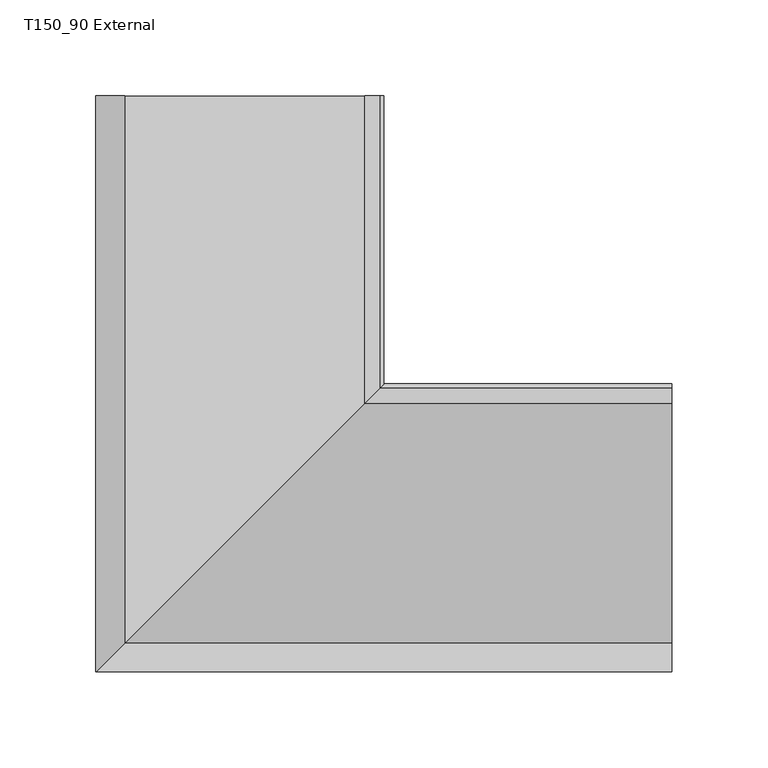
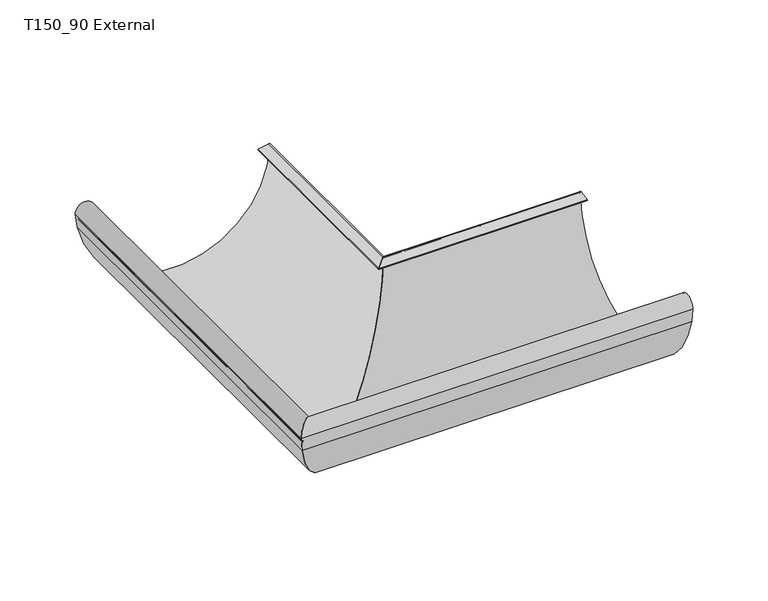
"""IFC4 building model written with IfcOpenShell, lengths in millimetres: proxy geometry, GROVIK_Gutter_Corner : T150_90 External."""

from ifc_helpers import new_model, si_unit, frame, origin, place, context, project, spatial, polyline, circle_curve, ellipse_curve, source, transform, mapped, element, save
from ifc_brep_helpers import plane_surface, cylinder_surface, revolved_surface, advanced_brep


def t150_90_external_e34a668a(model_context):
    return source(origin(), model_context, "Body", "AdvancedBrep", [
        advanced_brep(
        [(-9.9441961, -9.9441961, -1.4092855), (-9.7857475, -9.7857475, -2.295228), (-2.2975071, -2.2975071, -0.9559749), (-1.0039531, -1.0039531, -2.0540157), (-147.4579744, -147.4579744, -16.0293209), (-149.0946963, -149.0946963, -5.3813466), (-146.9551017, -146.9551017, -9.9710741), (-147.4343725, -147.4343725, -8.9478528), (-148.0, -148.0, -5.4006666), (-148.8875189, -148.8875189, -5.5500325), (-148.3363785, -148.3363785, -9.0063664), (-147.5920528, -147.5920528, -10.6080252), (-150.0, -150.0, -5.2006666), (-148.4372161, -148.4372161, -16.2320172), (0.0, 0.0, -1.8), (-2.2000746, -2.2000746, -0.0242687), (-2.2000746, 150.0, -0.0242687), (0.0, 150.0, -1.8), (-148.4372161, 150.0, -16.2320172), (-150.0, 150.0, -5.2006666), (-147.5920528, 150.0, -10.6080252), (-148.3363785, 150.0, -9.0063664), (-148.8875189, 150.0, -5.5500325), (-148.0, 150.0, -5.4006666), (-147.4343725, 150.0, -8.9478528), (-146.9551017, 150.0, -9.9710741), (-149.0946963, 150.0, -5.3813466), (-147.4579744, 150.0, -16.0293209), (-1.003133, 150.0, -2.054027), (-2.2975071, 150.0, -0.9559749), (-9.7857475, 150.0, -2.295228), (-9.9441961, 150.0, -1.4092855)],
        [
            (0, 1),
            (1, 2),
            (2, 3, ellipse_curve(frame((-2.1038477, -2.1038477, -2.0387934), z_axis=(-0.707106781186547, 0.7071067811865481, 0.0), x_axis=(-0.7071067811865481, -0.7071067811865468, 0.0)), 1.5556349, 1.1)),
            (3, 4, ellipse_curve(frame((-74.995059, -74.995059, -1.03), z_axis=(-0.707106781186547, 0.7071067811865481, 0.0), x_axis=(-0.7071067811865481, -0.7071067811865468, 0.0)), 104.6504061, 73.9990118)),
            (4, 5),
            (5, 6, ellipse_curve(frame((-142.5, -142.5, -5.1006666), z_axis=(-0.707106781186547, 0.7071067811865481, 0.0), x_axis=(-0.7071067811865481, -0.7071067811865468, 0.0)), 9.3347523, 6.6006666)),
            (6, 7, ellipse_curve(frame((-145.4150076, -145.4150076, -8.6258487), z_axis=(-0.707106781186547, 0.7071067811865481, 0.0), x_axis=(-0.7071067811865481, -0.7071067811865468, 0.0)), 2.8918925, 2.0448768)),
            (7, 8),
            (8, 9),
            (9, 10),
            (10, 11, ellipse_curve(frame((-145.1464101, -145.1464101, -8.4977001), z_axis=(0.707106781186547, -0.7071067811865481, 0.0), x_axis=(0.7071067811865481, 0.7071067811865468, 0.0)), 4.5682907, 3.2302694)),
            (11, 12, ellipse_curve(frame((-142.5, -142.5, -5.1006666), z_axis=(0.707106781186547, -0.7071067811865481, 0.0), x_axis=(0.7071067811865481, 0.7071067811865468, 0.0)), 10.6075445, 7.5006666)),
            (12, 13),
            (13, 14, ellipse_curve(frame((-74.995059, -74.995059, -1.03), z_axis=(0.707106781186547, -0.7071067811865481, 0.0), x_axis=(0.7071067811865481, 0.7071067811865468, 0.0)), 106.0646196, 74.9990118)),
            (14, 15, ellipse_curve(frame((-1.8973666, -1.8973666, -1.9), z_axis=(0.707106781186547, -0.7071067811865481, 0.0), x_axis=(0.7071067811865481, 0.7071067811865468, 0.0)), 2.6870058, 1.9)),
            (15, 0),
            (16, 17, circle_curve(frame((-1.8973666, 150.0, -1.9), z_axis=(0.0, 1.0, 0.0), x_axis=(-1.0, 0.0, 0.0)), 1.9)),
            (17, 18, circle_curve(frame((-74.995059, 150.0, -1.03), z_axis=(0.0, 1.0, 0.0), x_axis=(1.0, 0.0, 0.0)), 74.9990118)),
            (18, 19),
            (19, 20, circle_curve(frame((-142.5, 150.0, -5.1006666), z_axis=(0.0, 1.0, 0.0), x_axis=(-1.0, 0.0, 0.0)), 7.5006666)),
            (20, 21, circle_curve(frame((-145.1464101, 150.0, -8.4977001), z_axis=(0.0, 1.0, 0.0), x_axis=(-1.0, 0.0, 0.0)), 3.2302694)),
            (21, 22),
            (22, 23),
            (23, 24),
            (24, 25, circle_curve(frame((-145.4150076, 150.0, -8.6258487), z_axis=(0.0, -1.0, 0.0), x_axis=(-1.0, 0.0, 0.0)), 2.0448768)),
            (25, 26, circle_curve(frame((-142.5, 150.0, -5.1006666), z_axis=(0.0, -1.0, 0.0), x_axis=(-1.0, 0.0, 0.0)), 6.6006666)),
            (26, 27),
            (27, 28, circle_curve(frame((-74.995059, 150.0, -1.03), z_axis=(0.0, -1.0, 0.0), x_axis=(1.0, 0.0, 0.0)), 73.9990118)),
            (28, 29, circle_curve(frame((-2.1038477, 150.0, -2.0387934), z_axis=(0.0, -1.0, 0.0), x_axis=(-1.0, 0.0, 0.0)), 1.1)),
            (29, 30),
            (30, 31),
            (31, 16),
            (31, 0),
            (15, 16),
            (30, 1),
            (29, 2),
            (28, 3),
            (27, 4),
            (26, 5),
            (25, 6),
            (24, 7),
            (23, 8),
            (22, 9),
            (21, 10),
            (20, 11),
            (19, 12),
            (18, 13),
            (17, 14),
        ],
        [
            plane_surface(frame((-200.0, -200.0, 250.0), z_axis=(0.707106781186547, -0.7071067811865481, 0.0), x_axis=(0.0, 0.0, -1.0))),
            plane_surface(frame((0.0, 150.0, 0.0), z_axis=(0.0, 1.0, 0.0), x_axis=(0.0, 0.0, 1.0))),
            plane_surface(frame((-2.2000746, 150.0, -0.0242687), z_axis=(-0.17605399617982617, 0.0, 0.9843805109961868), x_axis=(0.0, -1.0, 0.0))),
            plane_surface(frame((-9.9441961, 150.0, -1.4092855), z_axis=(-0.9843805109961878, 0.0, -0.1760539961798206), x_axis=(0.0, -1.0, 0.0))),
            plane_surface(frame((-9.7857475, 150.0, -2.295228), z_axis=(0.17605399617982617, 0.0, -0.9843805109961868), x_axis=(0.0, -1.0, 0.0))),
            revolved_surface(polyline([(-3.2038477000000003, -3.2038476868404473, -2.0387934), (-3.2038477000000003, 150.0, -2.0387934)]), (-2.1038477, 150.0, -2.0387934), (0.0, -1.0, 0.0)),
            revolved_surface(polyline([(-0.9960471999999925, -148.99407080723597, -1.03), (-0.9960471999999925, 150.0, -1.03)]), (-74.995059, 150.0, -1.03), (0.0, -1.0, 0.0)),
            plane_surface(frame((-147.4579744, 150.0, -16.0293209), z_axis=(0.9883916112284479, 0.0, 0.15192768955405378), x_axis=(0.0, -1.0, 0.0))),
            revolved_surface(polyline([(-149.1006666, -149.1006666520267, -5.1006666), (-149.1006666, 150.0, -5.1006666)]), (-142.5, 150.0, -5.1006666), (0.0, -1.0, 0.0)),
            revolved_surface(polyline([(-147.4598844, -147.45988439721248, -8.6258487), (-147.4598844, 150.0, -8.6258487)]), (-145.4150076, 150.0, -8.6258487), (0.0, -1.0, 0.0)),
            plane_surface(frame((-147.4343725, 150.0, -8.9478528), z_axis=(0.9875239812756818, 0.0, 0.1574686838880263), x_axis=(0.0, -1.0, 0.0))),
            plane_surface(frame((-148.0, 150.0, -5.4006666), z_axis=(-0.1659620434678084, 0.0, 0.9861321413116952), x_axis=(0.0, -1.0, 0.0))),
            plane_surface(frame((-148.8875189, 150.0, -5.5500325), z_axis=(-0.9875239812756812, 0.0, -0.15746868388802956), x_axis=(0.0, -1.0, 0.0))),
            cylinder_surface(frame((-145.1464101, 150.0, -8.4977001), z_axis=(0.0, 1.0, 0.0), x_axis=(-1.0, 0.0, 0.0)), 3.2302694),
            cylinder_surface(frame((-142.5, 150.0, -5.1006666), z_axis=(0.0, 1.0, 0.0), x_axis=(-1.0, 0.0, 0.0)), 7.5006666),
            plane_surface(frame((-150.0, 150.0, -5.2006666), z_axis=(-0.9901137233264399, 0.0, -0.14026694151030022), x_axis=(0.0, -1.0, 0.0))),
            cylinder_surface(frame((-74.995059, 150.0, -1.03), z_axis=(0.0, 1.0, 0.0), x_axis=(1.0, 0.0, 0.0)), 74.9990118),
            cylinder_surface(frame((-1.8973666, 150.0, -1.9), z_axis=(0.0, 1.0, 0.0), x_axis=(-1.0, 0.0, 0.0)), 1.9),
        ],
        [
            (0, [[1, 2, 3, 4, 5, 6, 7, 8, 9, 10, 11, 12, 13, 14, 15, 16]]),
            (1, [[17, 18, 19, 20, 21, 22, 23, 24, 25, 26, 27, 28, 29, 30, 31, 32]]),
            (2, [[33, -16, 34, -32]]),
            (3, [[35, -1, -33, -31]]),
            (4, [[36, -2, -35, -30]]),
            (5, [[37, -3, -36, -29]]),
            (6, [[38, -4, -37, -28]]),
            (7, [[39, -5, -38, -27]]),
            (8, [[40, -6, -39, -26]]),
            (9, [[41, -7, -40, -25]]),
            (10, [[42, -8, -41, -24]]),
            (11, [[43, -9, -42, -23]]),
            (12, [[44, -10, -43, -22]]),
            (13, [[45, -11, -44, -21]]),
            (14, [[46, -12, -45, -20]]),
            (15, [[47, -13, -46, -19]]),
            (16, [[48, -14, -47, -18]]),
            (17, [[-34, -15, -48, -17]]),
        ],
    ),
        advanced_brep(
        [(-9.9441961, -9.9441961, -1.4092855), (-2.2000746, -2.2000746, -0.0242687), (0.0, 0.0, -1.8), (-148.4372161, -148.4372161, -16.2320172), (-150.0, -150.0, -5.2006666), (-147.5920528, -147.5920528, -10.6080252), (-148.3363785, -148.3363785, -9.0063664), (-148.8875189, -148.8875189, -5.5500325), (-148.0, -148.0, -5.4006666), (-147.4343725, -147.4343725, -8.9478528), (-146.9551017, -146.9551017, -9.9710741), (-149.0946963, -149.0946963, -5.3813466), (-147.4579744, -147.4579744, -16.0293209), (-1.003133, -1.003133, -2.054027), (-2.2975071, -2.2975071, -0.9559749), (-9.7857475, -9.7857475, -2.295228), (150.0, -2.2000746, -0.0242687), (150.0, -9.9441961, -1.4092855), (150.0, -9.7857475, -2.295228), (150.0, -2.2975071, -0.9559749), (150.0, -1.0039531, -2.0540157), (150.0, -147.4579744, -16.0293209), (150.0, -149.0946963, -5.3813466), (150.0, -146.9551017, -9.9710741), (150.0, -147.4343725, -8.9478528), (150.0, -148.0, -5.4006666), (150.0, -148.8875189, -5.5500325), (150.0, -148.3363785, -9.0063664), (150.0, -147.5920528, -10.6080252), (150.0, -150.0, -5.2006666), (150.0, -148.4372161, -16.2320172), (150.0, 0.0, -1.8)],
        [
            (0, 1),
            (1, 2, ellipse_curve(frame((-1.8973666, -1.8973666, -1.9), z_axis=(-0.707106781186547, 0.7071067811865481, 0.0), x_axis=(0.7071067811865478, 0.707106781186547, 0.0)), 2.6870058, 1.9)),
            (2, 3, ellipse_curve(frame((-74.995059, -74.995059, -1.03), z_axis=(-0.707106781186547, 0.7071067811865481, 0.0), x_axis=(0.7071067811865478, 0.707106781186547, 0.0)), 106.0646196, 74.9990118)),
            (3, 4),
            (4, 5, ellipse_curve(frame((-142.5, -142.5, -5.1006666), z_axis=(-0.707106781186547, 0.7071067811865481, 0.0), x_axis=(0.7071067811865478, 0.707106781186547, 0.0)), 10.6075445, 7.5006666)),
            (5, 6, ellipse_curve(frame((-145.1464101, -145.1464101, -8.4977001), z_axis=(-0.707106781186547, 0.7071067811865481, 0.0), x_axis=(0.7071067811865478, 0.707106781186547, 0.0)), 4.5682907, 3.2302694)),
            (6, 7),
            (7, 8),
            (8, 9),
            (9, 10, ellipse_curve(frame((-145.4150076, -145.4150076, -8.6258487), z_axis=(0.707106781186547, -0.7071067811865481, 0.0), x_axis=(-0.7071067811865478, -0.707106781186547, 0.0)), 2.8918925, 2.0448768)),
            (10, 11, ellipse_curve(frame((-142.5, -142.5, -5.1006666), z_axis=(0.707106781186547, -0.7071067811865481, 0.0), x_axis=(-0.7071067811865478, -0.707106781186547, 0.0)), 9.3347523, 6.6006666)),
            (11, 12),
            (12, 13, ellipse_curve(frame((-74.995059, -74.995059, -1.03), z_axis=(0.707106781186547, -0.7071067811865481, 0.0), x_axis=(-0.7071067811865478, -0.707106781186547, 0.0)), 104.6504061, 73.9990118)),
            (13, 14, ellipse_curve(frame((-2.1038477, -2.1038477, -2.0387934), z_axis=(0.707106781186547, -0.7071067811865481, 0.0), x_axis=(-0.7071067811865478, -0.707106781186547, 0.0)), 1.5556349, 1.1)),
            (14, 15),
            (15, 0),
            (16, 17),
            (17, 18),
            (18, 19),
            (19, 20, circle_curve(frame((150.0, -2.1038477, -2.0387934), z_axis=(-1.0, 0.0, 0.0), x_axis=(0.0, -1.0, 0.0)), 1.1)),
            (20, 21, circle_curve(frame((150.0, -74.995059, -1.03), z_axis=(-1.0, 0.0, 0.0), x_axis=(0.0, 1.0, 0.0)), 73.9990118)),
            (21, 22),
            (22, 23, circle_curve(frame((150.0, -142.5, -5.1006666), z_axis=(-1.0, 0.0, 0.0), x_axis=(0.0, -1.0, 0.0)), 6.6006666)),
            (23, 24, circle_curve(frame((150.0, -145.4150076, -8.6258487), z_axis=(-1.0, 0.0, 0.0), x_axis=(0.0, -1.0, 0.0)), 2.0448768)),
            (24, 25),
            (25, 26),
            (26, 27),
            (27, 28, circle_curve(frame((150.0, -145.1464101, -8.4977001), z_axis=(1.0, 0.0, 0.0), x_axis=(0.0, -1.0, 0.0)), 3.2302694)),
            (28, 29, circle_curve(frame((150.0, -142.5, -5.1006666), z_axis=(1.0, 0.0, 0.0), x_axis=(0.0, -1.0, 0.0)), 7.5006666)),
            (29, 30),
            (30, 31, circle_curve(frame((150.0, -74.995059, -1.03), z_axis=(1.0, 0.0, 0.0), x_axis=(0.0, 1.0, 0.0)), 74.9990118)),
            (31, 16, circle_curve(frame((150.0, -1.8973666, -1.9), z_axis=(1.0, 0.0, 0.0), x_axis=(0.0, -1.0, 0.0)), 1.9)),
            (16, 1),
            (0, 17),
            (15, 18),
            (14, 19),
            (13, 20),
            (12, 21),
            (11, 22),
            (10, 23),
            (9, 24),
            (8, 25),
            (7, 26),
            (6, 27),
            (5, 28),
            (4, 29),
            (3, 30),
            (2, 31),
        ],
        [
            plane_surface(frame((-200.0, -200.0, 250.0), z_axis=(-0.707106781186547, 0.7071067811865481, 0.0), x_axis=(0.0, 0.0, -1.0))),
            plane_surface(frame((150.0, 0.0, 0.0), z_axis=(1.0, 0.0, 0.0), x_axis=(0.0, 0.0, 1.0))),
            plane_surface(frame((150.0, -2.2000746, -0.0242687), z_axis=(0.0, -0.17605399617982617, 0.9843805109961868), x_axis=(-1.0, 0.0, 0.0))),
            plane_surface(frame((150.0, -9.9441961, -1.4092855), z_axis=(0.0, -0.9843805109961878, -0.1760539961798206), x_axis=(-1.0, 0.0, 0.0))),
            plane_surface(frame((150.0, -9.7857475, -2.295228), z_axis=(0.0, 0.17605399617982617, -0.9843805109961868), x_axis=(-1.0, 0.0, 0.0))),
            revolved_surface(polyline([(-3.2038476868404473, -3.2038477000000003, -2.0387934), (150.0, -3.2038477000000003, -2.0387934)]), (150.0, -2.1038477, -2.0387934), (-1.0, 0.0, 0.0)),
            revolved_surface(polyline([(-148.99407080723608, -0.9960471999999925, -1.03), (150.0, -0.9960471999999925, -1.03)]), (150.0, -74.995059, -1.03), (-1.0, 0.0, 0.0)),
            plane_surface(frame((150.0, -147.4579744, -16.0293209), z_axis=(0.0, 0.9883916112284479, 0.15192768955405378), x_axis=(-1.0, 0.0, 0.0))),
            revolved_surface(polyline([(-149.10066665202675, -149.1006666, -5.1006666), (150.0, -149.1006666, -5.1006666)]), (150.0, -142.5, -5.1006666), (-1.0, 0.0, 0.0)),
            revolved_surface(polyline([(-147.45988439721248, -147.4598844, -8.6258487), (150.0, -147.4598844, -8.6258487)]), (150.0, -145.4150076, -8.6258487), (-1.0, 0.0, 0.0)),
            plane_surface(frame((150.0, -147.4343725, -8.9478528), z_axis=(0.0, 0.9875239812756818, 0.1574686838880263), x_axis=(-1.0, 0.0, 0.0))),
            plane_surface(frame((150.0, -148.0, -5.4006666), z_axis=(0.0, -0.1659620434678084, 0.9861321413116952), x_axis=(-1.0, 0.0, 0.0))),
            plane_surface(frame((150.0, -148.8875189, -5.5500325), z_axis=(0.0, -0.9875239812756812, -0.15746868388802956), x_axis=(-1.0, 0.0, 0.0))),
            cylinder_surface(frame((150.0, -145.1464101, -8.4977001), z_axis=(1.0, 0.0, 0.0), x_axis=(0.0, -1.0, 0.0)), 3.2302694),
            cylinder_surface(frame((150.0, -142.5, -5.1006666), z_axis=(1.0, 0.0, 0.0), x_axis=(0.0, -1.0, 0.0)), 7.5006666),
            plane_surface(frame((150.0, -150.0, -5.2006666), z_axis=(0.0, -0.9901137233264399, -0.14026694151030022), x_axis=(-1.0, 0.0, 0.0))),
            cylinder_surface(frame((150.0, -74.995059, -1.03), z_axis=(1.0, 0.0, 0.0), x_axis=(0.0, 1.0, 0.0)), 74.9990118),
            cylinder_surface(frame((150.0, -1.8973666, -1.9), z_axis=(1.0, 0.0, 0.0), x_axis=(0.0, -1.0, 0.0)), 1.9),
        ],
        [
            (0, [[1, 2, 3, 4, 5, 6, 7, 8, 9, 10, 11, 12, 13, 14, 15, 16]]),
            (1, [[17, 18, 19, 20, 21, 22, 23, 24, 25, 26, 27, 28, 29, 30, 31, 32]]),
            (2, [[-17, 33, -1, 34]]),
            (3, [[-18, -34, -16, 35]]),
            (4, [[-19, -35, -15, 36]]),
            (5, [[-20, -36, -14, 37]]),
            (6, [[-21, -37, -13, 38]]),
            (7, [[-22, -38, -12, 39]]),
            (8, [[-23, -39, -11, 40]]),
            (9, [[-24, -40, -10, 41]]),
            (10, [[-25, -41, -9, 42]]),
            (11, [[-26, -42, -8, 43]]),
            (12, [[-27, -43, -7, 44]]),
            (13, [[-28, -44, -6, 45]]),
            (14, [[-29, -45, -5, 46]]),
            (15, [[-30, -46, -4, 47]]),
            (16, [[-31, -47, -3, 48]]),
            (17, [[-32, -48, -2, -33]]),
        ],
    ),
    ])


if __name__ == "__main__":
    model = new_model("IFC4")
    model_context = context("Model", 3, world=origin())
    ifc_project = project(units=[si_unit("LENGTHUNIT", "METRE", prefix="MILLI")], contexts=[model_context])
    site = spatial("IfcSite", under=ifc_project)
    building = spatial("IfcBuilding", under=site)
    placement = place(None, origin())
    t150_90_external_shape = t150_90_external_e34a668a(model_context)
    element("IfcBuildingElementProxy", 1, Name="GROVIK_Gutter_Corner : T150_90 External", ObjectType="GROVIK_Gutter_Corner : T150_90 External", at=placement, inside=building, context=model_context, shape_type="MappedRepresentation", body=[
        mapped(t150_90_external_shape, transform((0.0, 0.0, 0.0), x_axis=(1.0, 0.0, 0.0), y_axis=(0.0, 1.0, 0.0), z_axis=(0.0, 0.0, 1.0))),
    ])
    save(model, "model.ifc")
